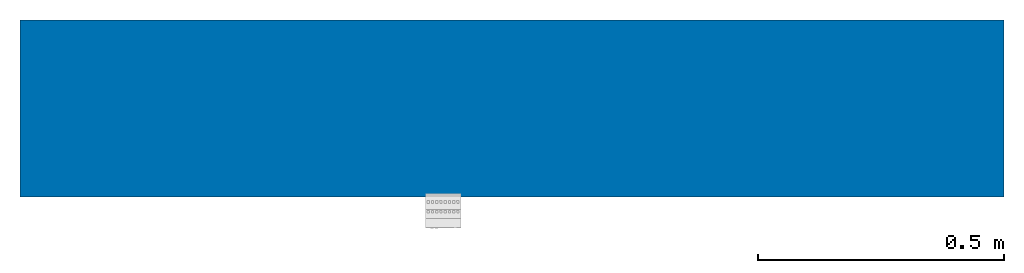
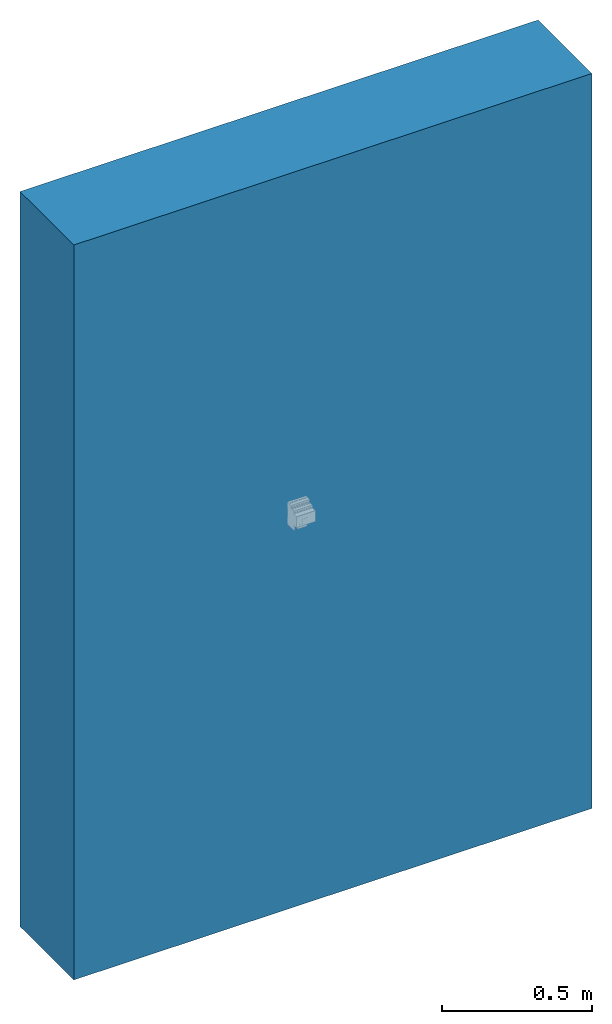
# One storey, incomplete: 1 wall.
"""IFC2X3 building model written with IfcOpenShell, lengths in metres."""

from ifc_helpers import new_model, entity, si_unit, converted_unit, derived_unit, direction, frame, frame_2d, origin, place, context, subcontext, project, spatial, rectangle, extrude, material, layer, layer_set, layer_usage, type_object, element, save


model = new_model("IFC2X3")

# Units and contexts
model_context = context("Model", 3, precision=1e-05, world=origin(), true_north=direction((6.12303176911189e-17, 1.0)))
body_context = subcontext(model_context, "Body", "Model", "MODEL_VIEW")
ifc_project = project(units=[si_unit("LENGTHUNIT", "METRE"), si_unit("AREAUNIT", "SQUARE_METRE"), si_unit("VOLUMEUNIT", "CUBIC_METRE"), converted_unit("PLANEANGLEUNIT", "DEGREE", entity("IfcRatioMeasure", 0.0174532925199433), si_unit("PLANEANGLEUNIT", "RADIAN"), dimensions=[0, 0, 0, 0, 0, 0, 0]), si_unit("MASSUNIT", "GRAM", prefix="KILO"), si_unit("TIMEUNIT", "SECOND"), si_unit("FREQUENCYUNIT", "HERTZ"), si_unit("THERMODYNAMICTEMPERATUREUNIT", "DEGREE_CELSIUS"), derived_unit("THERMALTRANSMITTANCEUNIT", [(si_unit("MASSUNIT", "GRAM", prefix="KILO"), 1), (si_unit("THERMODYNAMICTEMPERATUREUNIT", "KELVIN"), -1), (si_unit("TIMEUNIT", "SECOND"), -3)]), derived_unit("VOLUMETRICFLOWRATEUNIT", [(si_unit("LENGTHUNIT", "METRE"), 3), (si_unit("TIMEUNIT", "SECOND"), -1)]), si_unit("ELECTRICCURRENTUNIT", "AMPERE"), si_unit("ELECTRICVOLTAGEUNIT", "VOLT"), si_unit("POWERUNIT", "WATT"), si_unit("FORCEUNIT", "NEWTON", prefix="KILO"), si_unit("ILLUMINANCEUNIT", "LUX"), si_unit("LUMINOUSFLUXUNIT", "LUMEN"), si_unit("LUMINOUSINTENSITYUNIT", "CANDELA"), derived_unit("USERDEFINED", [(si_unit("MASSUNIT", "GRAM", prefix="KILO"), -1), (si_unit("LENGTHUNIT", "METRE"), -2), (si_unit("TIMEUNIT", "SECOND"), 3), (si_unit("LUMINOUSFLUXUNIT", "LUMEN"), 1)]), derived_unit("LINEARVELOCITYUNIT", [(si_unit("LENGTHUNIT", "METRE"), 1), (si_unit("TIMEUNIT", "SECOND"), -1)]), si_unit("PRESSUREUNIT", "PASCAL"), derived_unit("USERDEFINED", [(si_unit("LENGTHUNIT", "METRE"), -2), (si_unit("MASSUNIT", "GRAM", prefix="KILO"), 1), (si_unit("TIMEUNIT", "SECOND"), -2)])], contexts=[model_context])

# Site, building, storey
site_placement = place(None, origin())
site = spatial("IfcSite", under=ifc_project, at=site_placement, Name="Default", CompositionType="ELEMENT")
building_placement = place(site_placement, origin())
building = spatial("IfcBuilding", under=site, at=building_placement, CompositionType="ELEMENT")
storey_placement = place(building_placement, origin())
storey = spatial("IfcBuildingStorey", under=building, at=storey_placement, Name="Ebene 0", CompositionType="ELEMENT", Elevation=0.0)

# Wall
ifc_material_1 = material(Name="Wärmedämmung - hart")
ifc_layer_1 = layer(ifc_material_1, 0.12)
ifc_material_2 = material(Name="Mauerwerk - Ziegel, verputzt")
ifc_layer_2 = layer(ifc_material_2, 0.24)
ifc_layer_set = layer_set([ifc_layer_1, ifc_layer_2], Name="Basiswand:MW 24.0 WD 12.0")
ifc_layer_usage = layer_usage(ifc_layer_set, "AXIS2", "NEGATIVE", 0.18)
wall_type = type_object("IfcWallType", Name="Basiswand:MW 24.0 WD 12.0", PredefinedType="STANDARD", material=ifc_layer_set)
wall_placement = place(storey_placement, frame((-2.70285619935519, 1.41611731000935, 0.0)))
element("IfcWallStandardCase", 1, at=wall_placement, inside=storey, type_object=wall_type, material=ifc_layer_usage, Name="Basiswand:MW 24.0 WD 12.0", ObjectType="Basiswand:MW 24.0 WD 12.0:3900", context=body_context, shape_type="SweptSolid", body=[
    extrude(rectangle(XDim=2.0, YDim=0.36, at=frame_2d((1.0, -6.93889390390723e-17), x_axis=(-1.0, 0.0))), origin(), (0.0, 0.0, 1.0), 3.0),
])

save(model, "model.ifc")
